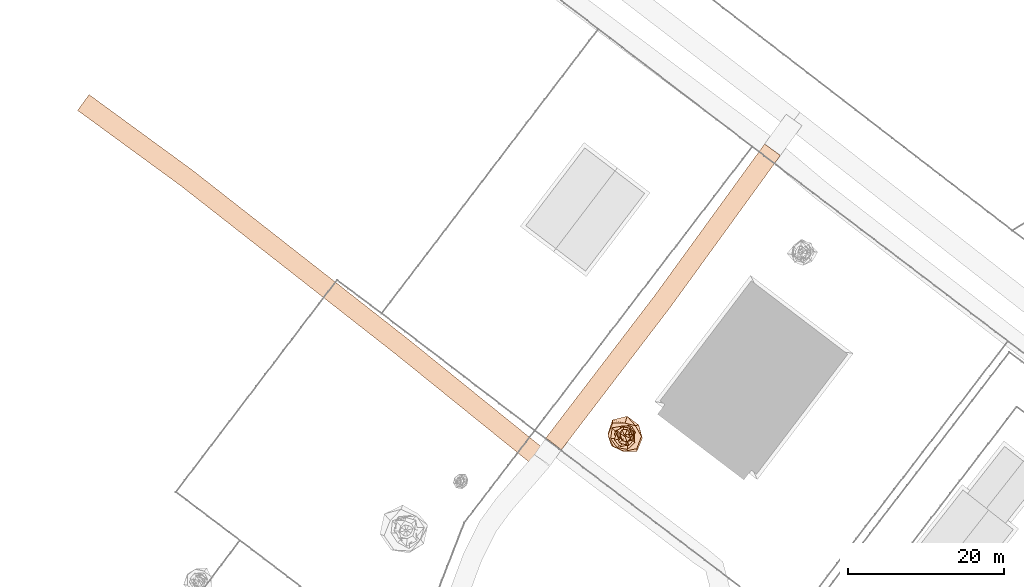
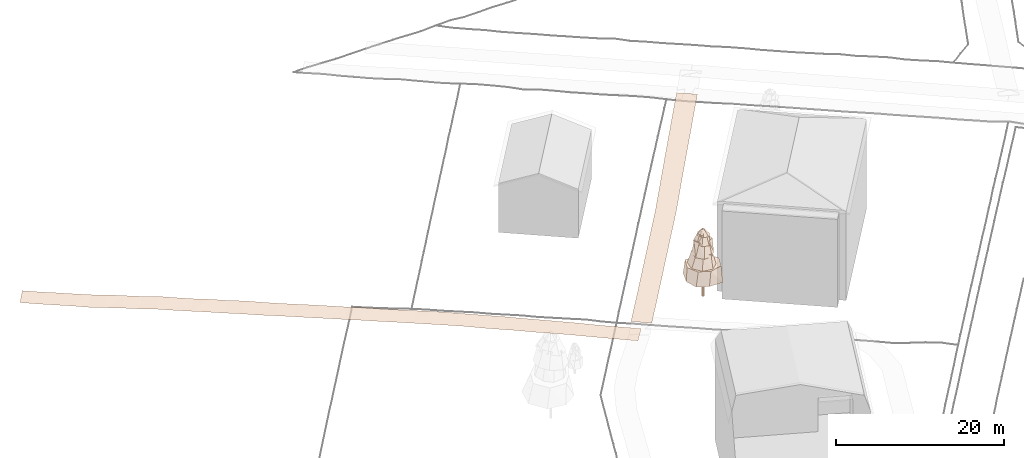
# Not in any storey, part 84 of 88: 3 geographic elements.
"""IFC4 model written with IfcOpenShell, lengths in metres."""

import ifcopenshell
import ifcopenshell.guid

model = None  # the IFC model being written
_history = None  # IfcOwnerHistory: only IFC2X3 demands one
_inside = {}  # id of a spatial element -> (the spatial element, [elements in it])
_under = {}  # id of a project, library or spatial element -> (it, [spatial elements below it])
_declared = {}  # id of a project -> (the project, [libraries it declares])
_typed = {}  # id of a type object -> (the type object, [elements of that type])
_made_of = {}  # id of a material, layer set ... -> (it, [elements and type objects made of it])


def new_model(schema):
    """Start an empty IFC model of exactly this schema.

    Asked for "IFC4X3", IfcOpenShell would pick the latest addendum, in which some entities
    have other attributes; the version numbers below select the first issue.
    IFC2X3 requires an IfcOwnerHistory on every rooted entity: one is made here for all.
    """
    global model, _history
    if schema == "IFC4X3":
        model = ifcopenshell.file(schema_version=(4, 3, 0, 0))
    else:
        model = ifcopenshell.file(schema=schema)
    _inside.clear()
    _under.clear()
    _declared.clear()
    _typed.clear()
    _made_of.clear()
    _history = None
    if model.schema == "IFC2X3":
        org = make("IfcOrganization", Name="unknown")
        user = make(
            "IfcPersonAndOrganization",
            ThePerson=make("IfcPerson", FamilyName="unknown"),
            TheOrganization=org,
        )
        app = make(
            "IfcApplication",
            ApplicationDeveloper=org,
            Version="unknown",
            ApplicationFullName="unknown",
            ApplicationIdentifier="unknown",
        )
        _history = make(
            "IfcOwnerHistory",
            OwningUser=user,
            OwningApplication=app,
            ChangeAction="ADDED",
            CreationDate=0,
        )
    return model


def make(cls, **values):
    """One entity of the class cls with the attributes given. An attribute that is None is left unset."""
    return model.create_entity(
        cls, **{name: value for name, value in values.items() if value is not None}
    )


def rooted(cls, **values):
    """An entity with a GlobalId (a new one), such as an element, a storey or a relation."""
    return make(cls, GlobalId=ifcopenshell.guid.new(), OwnerHistory=_history, **values)


def si_unit(unit_type, name, prefix=None):
    """IfcSIUnit, for example si_unit("LENGTHUNIT", "METRE", prefix="MILLI")."""
    return make("IfcSIUnit", UnitType=unit_type, Prefix=prefix, Name=name)


def assignment(units):
    """IfcUnitAssignment: the units of a project."""
    return None if units is None else make("IfcUnitAssignment", Units=units)


def point(xyz):
    """IfcCartesianPoint."""
    return None if xyz is None else make("IfcCartesianPoint", Coordinates=xyz)


def direction(xyz):
    """IfcDirection."""
    return None if xyz is None else make("IfcDirection", DirectionRatios=xyz)


def frame(location, z_axis=None, x_axis=None):
    """IfcAxis2Placement3D, a coordinate frame: its origin and axes. An axis left out is left unset."""
    return make(
        "IfcAxis2Placement3D",
        Location=point(location),
        Axis=direction(z_axis),
        RefDirection=direction(x_axis),
    )


def origin_with_axes():
    """The frame at (0, 0, 0) with the z axis (0, 0, 1) and the x axis (1, 0, 0) written out."""
    return frame((0.0, 0.0, 0.0), z_axis=(0.0, 0.0, 1.0), x_axis=(1.0, 0.0, 0.0))


def place(relative_to, where):
    """IfcLocalPlacement: puts the frame where relative to a parent placement (None: the world)."""
    return make(
        "IfcLocalPlacement", PlacementRelTo=relative_to, RelativePlacement=where
    )


def context(
    kind, dimensions, precision=None, world=None, true_north=None, identifier=None
):
    """IfcGeometricRepresentationContext, for example the 3D "Model" context."""
    return make(
        "IfcGeometricRepresentationContext",
        ContextIdentifier=identifier,
        ContextType=kind,
        CoordinateSpaceDimension=dimensions,
        Precision=precision,
        WorldCoordinateSystem=world,
        TrueNorth=true_north,
    )


def subcontext(parent, identifier, kind, view, scale=None):
    """IfcGeometricRepresentationSubContext, for example "Body" below "Model"."""
    return make(
        "IfcGeometricRepresentationSubContext",
        ContextIdentifier=identifier,
        ContextType=kind,
        ParentContext=parent,
        TargetScale=scale,
        TargetView=view,
    )


def project(units=None, contexts=None):
    """IfcProject with its units and contexts."""
    return rooted(
        "IfcProject",
        Name="project",
        RepresentationContexts=contexts,
        UnitsInContext=assignment(units),
    )


def spatial(cls, under=None, at=None, **own):
    """A site, building, storey or space (cls), placed at a placement, below another one or the project."""
    s = rooted(cls, ObjectPlacement=at, **own)
    if under is not None:
        _under.setdefault(under.id(), (under, []))[1].append(s)
    return s


def point_list(points):
    """IfcCartesianPointList2D or 3D."""
    cls = (
        "IfcCartesianPointList2D" if len(points[0]) == 2 else "IfcCartesianPointList3D"
    )
    return make(cls, CoordList=points)


def profile(cls, at=None, kind="AREA", **sizes):
    """A parametric profile (cls). Its sizes go by their IFC names, for example OverallWidth=200.0."""
    return make(cls, ProfileType=kind, Position=at, **sizes)


def circle(**sizes):
    """IfcCircleProfileDef."""
    return profile("IfcCircleProfileDef", **sizes)


def extrude(swept, where, along, depth):
    """IfcExtrudedAreaSolid: the profile swept, set in the frame where, extruded along a direction by depth."""
    return make(
        "IfcExtrudedAreaSolid",
        SweptArea=swept,
        Position=where,
        ExtrudedDirection=direction(along),
        Depth=depth,
    )


def faces_of(points, faces, orient=None, outer=None):
    """IfcFace entities. A face is a list of loops; a loop is a list of indices into points, from 0.

    orient and outer hold one flag for each loop. By default every Orientation is true, the
    first loop of a face is its IfcFaceOuterBound and the others are IfcFaceBound.
    """
    made = []
    for i, loops in enumerate(faces):
        bounds = []
        for j, loop in enumerate(loops):
            is_outer = j == 0 if outer is None else outer[i][j]
            bounds.append(
                make(
                    "IfcFaceOuterBound" if is_outer else "IfcFaceBound",
                    Bound=make("IfcPolyLoop", Polygon=[points[k] for k in loop]),
                    Orientation=True if orient is None else orient[i][j],
                )
            )
        made.append(make("IfcFace", Bounds=bounds))
    return made


def faceted_brep(points, faces, orient=None, outer=None, voids=None):
    """IfcFacetedBrep: a solid bounded by flat faces; with voids (closed shells), ...WithVoids."""
    shared = [point(p) for p in points]
    hull = make("IfcClosedShell", CfsFaces=faces_of(shared, faces, orient, outer))
    if voids is None:
        return make("IfcFacetedBrep", Outer=hull)
    return make(
        "IfcFacetedBrepWithVoids",
        Outer=hull,
        Voids=[
            make(cls, CfsFaces=faces_of(shared, fs, o, b)) for cls, fs, o, b in voids
        ],
    )


def triangles(points, corners, closed=None, point_numbers=None):
    """IfcTriangulatedFaceSet: each triangle names its three corners, points numbered from 1."""
    return make(
        "IfcTriangulatedFaceSet",
        Coordinates=point_list(points),
        Closed=closed,
        CoordIndex=corners,
        PnIndex=point_numbers,
    )


def shape(context_of_items, identifier, shape_type, items):
    """IfcShapeRepresentation: the items that make up one representation, for example the "Body"."""
    return make(
        "IfcShapeRepresentation",
        ContextOfItems=context_of_items,
        RepresentationIdentifier=identifier,
        RepresentationType=shape_type,
        Items=items,
    )


def made_of(thing, what):
    """Note that an element or type object is made of a material, layer set ...; save() writes the relation."""
    if what is not None:
        _made_of.setdefault(what.id(), (what, []))[1].append(thing)
    return thing


def element(
    cls,
    number,
    at=None,
    inside=None,
    cuts=None,
    type_object=None,
    material=None,
    context=None,
    identifier="Body",
    shape_type=None,
    held_by="IfcProductDefinitionShape",
    body=None,
    shapes=None,
    **own,
):
    """One element of the class cls, such as IfcWall. Its Tag is "e" and its number.

    at: its placement. inside: the storey or other place that contains it. cuts: it is an
    opening in that element (IfcRelVoidsElement). A single representation is given by context,
    identifier, shape_type and body (its items); several are given by shapes. held_by: the class
    of the entity that holds the representations. save() writes the other relations.
    """
    e = rooted(cls, Tag="e%d" % number, ObjectPlacement=at, **own)
    if body is not None:
        shapes = [shape(context, identifier, shape_type, body)]
    if shapes is not None:
        e.Representation = make(held_by, Representations=shapes)
    if inside is not None:
        _inside.setdefault(inside.id(), (inside, []))[1].append(e)
    if cuts is not None:
        rooted(
            "IfcRelVoidsElement", RelatingBuildingElement=cuts, RelatedOpeningElement=e
        )
    if type_object is not None:
        _typed.setdefault(type_object.id(), (type_object, []))[1].append(e)
    return made_of(e, material)


def aggregate(whole, parts):
    """IfcRelAggregates: a whole, such as a stair, and the parts it consists of."""
    return rooted("IfcRelAggregates", RelatingObject=whole, RelatedObjects=parts)


def save(model, path):
    """Write the relations noted so far, then the file.

    IfcRelAggregates (storeys below a building ...), IfcRelContainedInSpatialStructure (elements
    in a storey), IfcRelDefinesByType, IfcRelAssociatesMaterial and IfcRelDeclares: one each for
    every whole, place, type object, material and project.
    """
    for whole, parts in _under.values():
        aggregate(whole, parts)
    for where, things in _inside.values():
        rooted(
            "IfcRelContainedInSpatialStructure",
            RelatedElements=things,
            RelatingStructure=where,
        )
    for kind, things in _typed.values():
        rooted("IfcRelDefinesByType", RelatedObjects=things, RelatingType=kind)
    for what, things in _made_of.values():
        rooted("IfcRelAssociatesMaterial", RelatedObjects=things, RelatingMaterial=what)
    for by, libraries in _declared.values():
        rooted("IfcRelDeclares", RelatingContext=by, RelatedDefinitions=libraries)
    model.write(path)


model = new_model("IFC4")

# Units and contexts
model_context = context("Model", 3, precision=1e-05, world=origin_with_axes())
body_context = subcontext(model_context, "Body", "Model", "MODEL_VIEW")
ifc_project = project(units=[si_unit("LENGTHUNIT", "METRE"), si_unit("AREAUNIT", "SQUARE_METRE"), si_unit("VOLUMEUNIT", "CUBIC_METRE"), si_unit("PLANEANGLEUNIT", "RADIAN")], contexts=[model_context])

# Sites
site_1_placement = place(None, origin_with_axes())
site_1 = spatial("IfcSite", under=ifc_project, at=site_1_placement, Name="CH907857693633", CompositionType="ELEMENT")
site_2_placement = place(None, origin_with_axes())
site_2 = spatial("IfcSite", under=site_1, at=site_2_placement, Name="Vegetation", CompositionType="ELEMENT")

# Geographic element
geographic_element_1_placement = place(None, frame((76.5490000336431, 165.822003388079, 8.29266357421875), z_axis=(0.0, 0.0, 1.0), x_axis=(1.0, 0.0, 0.0)))
element("IfcGeographicElement", 1, at=geographic_element_1_placement, inside=site_2, Name="Tree_einzelbaum", ObjectType="VEGETATION", PredefinedType="USERDEFINED", context=body_context, shape_type="Brep", body=[
    extrude(circle(Radius=0.15), origin_with_axes(), (0.0, 0.0, 1.0), 2.66645605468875),
    faceted_brep([(2.28107047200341, -0.295422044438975, 2.66645605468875), (1.56140918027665, -2.02601780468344, 2.66645605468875), (-0.256157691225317, -1.97789486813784, 2.66645605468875), (-1.68212006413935, -1.29637444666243, 2.66645605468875), (-2.14799230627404, 0.27818705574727, 2.66645605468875), (-1.56776121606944, 2.03425993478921, 2.66645605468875), (0.324426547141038, 2.50502571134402, 2.66645605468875), (1.80590220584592, 1.39177073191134, 2.66645605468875), (1.37412151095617, 1.29718432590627, 4.83489047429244), (0.0464719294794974, 1.61353364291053, 4.83489047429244), (-1.53763321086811, 1.62883163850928, 4.83489047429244), (-2.14603103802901, 0.0618085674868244, 4.83489047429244), (-1.45130383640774, -1.37004520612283, 4.83489047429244), (-0.0572854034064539, -1.98898403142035, 4.83489047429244), (1.55308108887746, -1.64519574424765, 4.83489047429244), (2.15118167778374, -0.0619569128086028, 4.83489047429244), (1.80590220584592, 1.39177073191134, 2.66645605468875), (0.324426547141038, 2.50502571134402, 2.66645605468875), (0.0464719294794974, 1.61353364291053, 4.83489047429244), (1.37412151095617, 1.29718432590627, 4.83489047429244), (0.324426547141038, 2.50502571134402, 2.66645605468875), (-1.56776121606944, 2.03425993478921, 2.66645605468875), (-1.53763321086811, 1.62883163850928, 4.83489047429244), (0.0464719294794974, 1.61353364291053, 4.83489047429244), (-1.56776121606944, 2.03425993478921, 2.66645605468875), (-2.14799230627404, 0.27818705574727, 2.66645605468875), (-2.14603103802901, 0.0618085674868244, 4.83489047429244), (-1.53763321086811, 1.62883163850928, 4.83489047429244), (-2.14799230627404, 0.27818705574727, 2.66645605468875), (-1.68212006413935, -1.29637444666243, 2.66645605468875), (-1.45130383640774, -1.37004520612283, 4.83489047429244), (-2.14603103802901, 0.0618085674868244, 4.83489047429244), (-1.68212006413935, -1.29637444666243, 2.66645605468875), (-0.256157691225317, -1.97789486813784, 2.66645605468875), (-0.0572854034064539, -1.98898403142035, 4.83489047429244), (-1.45130383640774, -1.37004520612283, 4.83489047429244), (-0.256157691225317, -1.97789486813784, 2.66645605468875), (1.56140918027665, -2.02601780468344, 2.66645605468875), (1.55308108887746, -1.64519574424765, 4.83489047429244), (-0.0572854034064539, -1.98898403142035, 4.83489047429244), (1.56140918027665, -2.02601780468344, 2.66645605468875), (2.28107047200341, -0.295422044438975, 2.66645605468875), (2.15118167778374, -0.0619569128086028, 4.83489047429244), (1.55308108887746, -1.64519574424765, 4.83489047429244), (2.28107047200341, -0.295422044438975, 2.66645605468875), (1.80590220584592, 1.39177073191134, 2.66645605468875), (1.37412151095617, 1.29718432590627, 4.83489047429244), (2.15118167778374, -0.0619569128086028, 4.83489047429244)], [[[0, 1, 2, 3, 4, 5, 6, 7]], [[8, 9, 10, 11, 12, 13, 14, 15]], [[16, 17, 18, 19]], [[20, 21, 22, 23]], [[24, 25, 26, 27]], [[28, 29, 30, 31]], [[32, 33, 34, 35]], [[36, 37, 38, 39]], [[40, 41, 42, 43]], [[44, 45, 46, 47]]]),
    faceted_brep([(1.35810362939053, -0.896066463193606, 4.50962531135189), (0.372905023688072, -1.81931544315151, 4.50962531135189), (-1.03534001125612, -1.56919055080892, 4.50962531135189), (-1.87623543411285, -0.384571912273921, 4.50962531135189), (-1.64847573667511, 1.08765177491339, 4.50962531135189), (-0.272794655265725, 1.33090062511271, 4.50962531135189), (0.849833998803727, 1.28803240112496, 4.50962531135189), (1.30969109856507, 0.268447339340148, 4.50962531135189), (1.39647011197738, 0.435301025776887, 6.67960353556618), (0.535741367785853, 1.02100201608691, 6.67960353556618), (-0.314325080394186, 1.00837249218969, 6.67960353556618), (-1.21061836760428, 0.635237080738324, 6.67960353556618), (-1.13387702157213, -0.353446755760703, 6.67960353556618), (-0.601291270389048, -1.14592532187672, 6.67960353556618), (0.385324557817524, -1.23614279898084, 6.67960353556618), (0.939105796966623, -0.492768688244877, 6.67960353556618), (1.30969109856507, 0.268447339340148, 4.50962531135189), (0.849833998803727, 1.28803240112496, 4.50962531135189), (0.535741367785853, 1.02100201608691, 6.67960353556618), (1.39647011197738, 0.435301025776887, 6.67960353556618), (0.849833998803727, 1.28803240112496, 4.50962531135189), (-0.272794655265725, 1.33090062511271, 4.50962531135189), (-0.314325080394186, 1.00837249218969, 6.67960353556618), (0.535741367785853, 1.02100201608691, 6.67960353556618), (-0.272794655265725, 1.33090062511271, 4.50962531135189), (-1.64847573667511, 1.08765177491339, 4.50962531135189), (-1.21061836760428, 0.635237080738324, 6.67960353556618), (-0.314325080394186, 1.00837249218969, 6.67960353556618), (-1.64847573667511, 1.08765177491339, 4.50962531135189), (-1.87623543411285, -0.384571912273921, 4.50962531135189), (-1.13387702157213, -0.353446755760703, 6.67960353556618), (-1.21061836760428, 0.635237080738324, 6.67960353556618), (-1.87623543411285, -0.384571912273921, 4.50962531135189), (-1.03534001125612, -1.56919055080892, 4.50962531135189), (-0.601291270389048, -1.14592532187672, 6.67960353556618), (-1.13387702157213, -0.353446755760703, 6.67960353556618), (-1.03534001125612, -1.56919055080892, 4.50962531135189), (0.372905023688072, -1.81931544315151, 4.50962531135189), (0.385324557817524, -1.23614279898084, 6.67960353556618), (-0.601291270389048, -1.14592532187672, 6.67960353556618), (0.372905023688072, -1.81931544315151, 4.50962531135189), (1.35810362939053, -0.896066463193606, 4.50962531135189), (0.939105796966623, -0.492768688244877, 6.67960353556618), (0.385324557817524, -1.23614279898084, 6.67960353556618), (1.35810362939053, -0.896066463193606, 4.50962531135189), (1.30969109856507, 0.268447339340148, 4.50962531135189), (1.39647011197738, 0.435301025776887, 6.67960353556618), (0.939105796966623, -0.492768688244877, 6.67960353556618)], [[[0, 1, 2, 3, 4, 5, 6, 7]], [[8, 9, 10, 11, 12, 13, 14, 15]], [[16, 17, 18, 19]], [[20, 21, 22, 23]], [[24, 25, 26, 27]], [[28, 29, 30, 31]], [[32, 33, 34, 35]], [[36, 37, 38, 39]], [[40, 41, 42, 43]], [[44, 45, 46, 47]]]),
    faceted_brep([(1.20053959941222, -0.483339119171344, 6.35410680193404), (0.532676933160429, -1.2506452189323, 6.35410680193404), (-0.548788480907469, -1.36310568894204, 6.35410680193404), (-1.32271220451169, -0.563371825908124, 6.35410680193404), (-1.27507240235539, 0.513346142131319, 6.35410680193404), (-0.459155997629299, 1.07802913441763, 6.35410680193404), (0.549158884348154, 1.36402571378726, 6.35410680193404), (1.21380715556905, 0.516986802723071, 6.35410680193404), (1.03693475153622, 0.570054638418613, 8.22617369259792), (0.247055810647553, 0.85035977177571, 8.22617369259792), (-0.389377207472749, 0.708280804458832, 8.22617369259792), (-1.07494811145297, 0.312305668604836, 8.22617369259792), (-0.779624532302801, -0.428598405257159, 8.22617369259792), (-0.235079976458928, -0.809139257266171, 8.22617369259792), (0.396604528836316, -0.721427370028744, 8.22617369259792), (1.09622362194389, -0.318486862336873, 8.22617369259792), (1.21380715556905, 0.516986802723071, 6.35410680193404), (0.549158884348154, 1.36402571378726, 6.35410680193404), (0.247055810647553, 0.85035977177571, 8.22617369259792), (1.03693475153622, 0.570054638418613, 8.22617369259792), (0.549158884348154, 1.36402571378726, 6.35410680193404), (-0.459155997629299, 1.07802913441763, 6.35410680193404), (-0.389377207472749, 0.708280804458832, 8.22617369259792), (0.247055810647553, 0.85035977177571, 8.22617369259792), (-0.459155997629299, 1.07802913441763, 6.35410680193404), (-1.27507240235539, 0.513346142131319, 6.35410680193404), (-1.07494811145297, 0.312305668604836, 8.22617369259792), (-0.389377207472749, 0.708280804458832, 8.22617369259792), (-1.27507240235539, 0.513346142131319, 6.35410680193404), (-1.32271220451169, -0.563371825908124, 6.35410680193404), (-0.779624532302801, -0.428598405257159, 8.22617369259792), (-1.07494811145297, 0.312305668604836, 8.22617369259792), (-1.32271220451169, -0.563371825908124, 6.35410680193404), (-0.548788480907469, -1.36310568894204, 6.35410680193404), (-0.235079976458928, -0.809139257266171, 8.22617369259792), (-0.779624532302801, -0.428598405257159, 8.22617369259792), (-0.548788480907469, -1.36310568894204, 6.35410680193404), (0.532676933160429, -1.2506452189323, 6.35410680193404), (0.396604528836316, -0.721427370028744, 8.22617369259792), (-0.235079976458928, -0.809139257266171, 8.22617369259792), (0.532676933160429, -1.2506452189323, 6.35410680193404), (1.20053959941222, -0.483339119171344, 6.35410680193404), (1.09622362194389, -0.318486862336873, 8.22617369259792), (0.396604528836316, -0.721427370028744, 8.22617369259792), (1.20053959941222, -0.483339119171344, 6.35410680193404), (1.21380715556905, 0.516986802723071, 6.35410680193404), (1.03693475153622, 0.570054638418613, 8.22617369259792), (1.09622362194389, -0.318486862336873, 8.22617369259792)], [[[0, 1, 2, 3, 4, 5, 6, 7]], [[8, 9, 10, 11, 12, 13, 14, 15]], [[16, 17, 18, 19]], [[20, 21, 22, 23]], [[24, 25, 26, 27]], [[28, 29, 30, 31]], [[32, 33, 34, 35]], [[36, 37, 38, 39]], [[40, 41, 42, 43]], [[44, 45, 46, 47]]]),
    faceted_brep([(0.706671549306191, -0.51430036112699, 7.94536365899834), (0.180345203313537, -1.14464348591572, 7.94536365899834), (-0.668976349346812, -0.919203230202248, 7.94536365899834), (-0.89340715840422, -0.140761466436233, 7.94536365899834), (-0.971513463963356, 0.707046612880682, 7.94536365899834), (-0.178791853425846, 1.13478443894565, 7.94536365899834), (0.689387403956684, 0.947248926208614, 7.94536365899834), (1.04861717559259, 0.165215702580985, 7.94536365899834), (0.641579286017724, 0.168114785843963, 9.15974583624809), (0.281850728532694, 0.482006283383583, 9.15974583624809), (-0.163869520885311, 0.625378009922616, 9.15974583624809), (-0.588943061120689, 0.344381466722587, 9.15974583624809), (-0.579483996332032, -0.151843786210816, 9.15974583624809), (-0.276986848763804, -0.473688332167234, 9.15974583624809), (0.153732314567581, -0.586691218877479, 9.15974583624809), (0.556390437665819, -0.32534648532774, 9.15974583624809), (1.04861717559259, 0.165215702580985, 7.94536365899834), (0.689387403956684, 0.947248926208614, 7.94536365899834), (0.281850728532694, 0.482006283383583, 9.15974583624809), (0.641579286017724, 0.168114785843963, 9.15974583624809), (0.689387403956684, 0.947248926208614, 7.94536365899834), (-0.178791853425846, 1.13478443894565, 7.94536365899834), (-0.163869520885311, 0.625378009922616, 9.15974583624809), (0.281850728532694, 0.482006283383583, 9.15974583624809), (-0.178791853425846, 1.13478443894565, 7.94536365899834), (-0.971513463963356, 0.707046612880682, 7.94536365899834), (-0.588943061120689, 0.344381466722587, 9.15974583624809), (-0.163869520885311, 0.625378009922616, 9.15974583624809), (-0.971513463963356, 0.707046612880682, 7.94536365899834), (-0.89340715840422, -0.140761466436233, 7.94536365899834), (-0.579483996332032, -0.151843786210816, 9.15974583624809), (-0.588943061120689, 0.344381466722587, 9.15974583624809), (-0.89340715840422, -0.140761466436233, 7.94536365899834), (-0.668976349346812, -0.919203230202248, 7.94536365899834), (-0.276986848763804, -0.473688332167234, 9.15974583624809), (-0.579483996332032, -0.151843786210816, 9.15974583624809), (-0.668976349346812, -0.919203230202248, 7.94536365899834), (0.180345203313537, -1.14464348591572, 7.94536365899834), (0.153732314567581, -0.586691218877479, 9.15974583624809), (-0.276986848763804, -0.473688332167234, 9.15974583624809), (0.180345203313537, -1.14464348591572, 7.94536365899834), (0.706671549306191, -0.51430036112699, 7.94536365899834), (0.556390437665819, -0.32534648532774, 9.15974583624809), (0.153732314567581, -0.586691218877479, 9.15974583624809), (0.706671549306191, -0.51430036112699, 7.94536365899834), (1.04861717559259, 0.165215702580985, 7.94536365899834), (0.641579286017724, 0.168114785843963, 9.15974583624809), (0.556390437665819, -0.32534648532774, 9.15974583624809)], [[[0, 1, 2, 3, 4, 5, 6, 7]], [[8, 9, 10, 11, 12, 13, 14, 15]], [[16, 17, 18, 19]], [[20, 21, 22, 23]], [[24, 25, 26, 27]], [[28, 29, 30, 31]], [[32, 33, 34, 35]], [[36, 37, 38, 39]], [[40, 41, 42, 43]], [[44, 45, 46, 47]]]),
    faceted_brep([(0.773548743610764, -0.315948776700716, 8.97758850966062), (0.324086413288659, -0.771615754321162, 8.97758850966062), (-0.26427515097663, -0.647034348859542, 8.97758850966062), (-0.586859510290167, -0.246486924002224, 8.97758850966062), (-0.678219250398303, 0.277012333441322, 8.97758850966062), (-0.324151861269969, 0.77177157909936, 8.97758850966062), (0.327480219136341, 0.801781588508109, 8.97758850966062), (0.638668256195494, 0.268247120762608, 8.97758850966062), (0.0776846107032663, 0.0422012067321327, 9.85056485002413), (0.0241363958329, 0.081548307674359, 9.85056485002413), (-0.0414639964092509, 0.0763275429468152, 9.85056485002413), (-0.0981833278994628, 0.029059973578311, 9.85056485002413), (-0.0762345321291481, -0.0414134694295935, 9.85056485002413), (-0.0221989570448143, -0.0750023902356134, 9.85056485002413), (0.0470033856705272, -0.0865245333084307, 9.85056485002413), (0.0807517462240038, -0.0239006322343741, 9.85056485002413), (0.638668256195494, 0.268247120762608, 8.97758850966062), (0.327480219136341, 0.801781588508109, 8.97758850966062), (0.0241363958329, 0.081548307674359, 9.85056485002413), (0.0776846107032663, 0.0422012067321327, 9.85056485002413), (0.327480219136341, 0.801781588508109, 8.97758850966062), (-0.324151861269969, 0.77177157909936, 8.97758850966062), (-0.0414639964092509, 0.0763275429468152, 9.85056485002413), (0.0241363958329, 0.081548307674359, 9.85056485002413), (-0.324151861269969, 0.77177157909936, 8.97758850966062), (-0.678219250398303, 0.277012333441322, 8.97758850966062), (-0.0981833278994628, 0.029059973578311, 9.85056485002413), (-0.0414639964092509, 0.0763275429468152, 9.85056485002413), (-0.678219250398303, 0.277012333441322, 8.97758850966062), (-0.586859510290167, -0.246486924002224, 8.97758850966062), (-0.0762345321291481, -0.0414134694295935, 9.85056485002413), (-0.0981833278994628, 0.029059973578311, 9.85056485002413), (-0.586859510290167, -0.246486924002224, 8.97758850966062), (-0.26427515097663, -0.647034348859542, 8.97758850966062), (-0.0221989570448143, -0.0750023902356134, 9.85056485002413), (-0.0762345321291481, -0.0414134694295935, 9.85056485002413), (-0.26427515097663, -0.647034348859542, 8.97758850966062), (0.324086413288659, -0.771615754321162, 8.97758850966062), (0.0470033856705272, -0.0865245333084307, 9.85056485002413), (-0.0221989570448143, -0.0750023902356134, 9.85056485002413), (0.324086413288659, -0.771615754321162, 8.97758850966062), (0.773548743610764, -0.315948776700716, 8.97758850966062), (0.0807517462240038, -0.0239006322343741, 9.85056485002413), (0.0470033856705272, -0.0865245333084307, 9.85056485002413), (0.773548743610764, -0.315948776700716, 8.97758850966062), (0.638668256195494, 0.268247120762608, 8.97758850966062), (0.0776846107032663, 0.0422012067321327, 9.85056485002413), (0.0807517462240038, -0.0239006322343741, 9.85056485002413)], [[[0, 1, 2, 3, 4, 5, 6, 7]], [[8, 9, 10, 11, 12, 13, 14, 15]], [[16, 17, 18, 19]], [[20, 21, 22, 23]], [[24, 25, 26, 27]], [[28, 29, 30, 31]], [[32, 33, 34, 35]], [[36, 37, 38, 39]], [[40, 41, 42, 43]], [[44, 45, 46, 47]]]),
])

# Site
site_3_placement = place(None, origin_with_axes())
site_3 = spatial("IfcSite", under=site_1, at=site_3_placement, Name="Roads", CompositionType="ELEMENT")

# Geographic elements
geographic_element_2_placement = place(None, origin_with_axes())
element("IfcGeographicElement", 2, at=geographic_element_2_placement, inside=site_3, Name="Road_weg", ObjectType="ROAD", PredefinedType="USERDEFINED", context=body_context, shape_type="Tessellation", body=[
    triangles([(65.2421301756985, 161.735939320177, 8.20319824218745), (63.6142210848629, 163.052030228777, 8.19978027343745), (61.9863119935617, 164.368121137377, 8.1988647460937), (60.3584029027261, 165.684212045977, 8.1961791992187), (58.7304938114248, 167.000302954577, 8.2092407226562), (57.1025847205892, 168.316393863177, 8.16267089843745), (55.474675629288, 169.63248477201, 8.1190307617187), (53.8467665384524, 170.94857568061, 8.12531738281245), (52.2188574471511, 172.26466658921, 8.07099609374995), (50.5909483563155, 173.58075749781, 8.03535156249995), (48.9630392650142, 174.89684840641, 8.0437133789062), (47.3425522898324, 176.206985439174, 7.9809692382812), (45.7289665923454, 177.470991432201, 7.93012695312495), (44.1077901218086, 178.740991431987, 7.87067871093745), (42.4866136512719, 180.010991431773, 7.8126342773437), (40.8654371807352, 181.280991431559, 7.73200683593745), (39.2442607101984, 182.550991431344, 7.68244628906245), (37.6230842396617, 183.82099143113, 7.6054809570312), (36.001907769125, 185.090991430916, 7.5428588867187), (34.3807312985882, 186.360991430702, 7.4588745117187), (32.7595548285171, 187.630991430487, 7.4030883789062), (31.1383783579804, 188.900991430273, 7.3238647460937), (29.5172018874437, 190.170991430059, 7.2264526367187), (27.8960254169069, 191.440991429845, 7.2016723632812), (26.2748489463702, 192.710991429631, 7.10822753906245), (24.6536724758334, 193.980991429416, 7.06098632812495), (23.0324960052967, 195.250991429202, 6.97944335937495), (21.41131953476, 196.520991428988, 6.9122436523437), (19.8066041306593, 197.778315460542, 6.8737915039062), (18.172518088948, 198.972452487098, 6.7606323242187), (16.5216430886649, 200.179077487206, 6.7238891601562), (14.8707680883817, 201.385702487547, 6.62653808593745), (13.2198930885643, 202.592327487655, 6.53706054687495), (11.5690180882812, 203.798952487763, 6.58283691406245), (9.91814308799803, 205.005577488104, 6.56806640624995), (8.26726808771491, 206.212202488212, 6.5651977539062), (6.61639308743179, 207.41882748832, 6.5998657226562), (66.8138698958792, 163.680067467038, 8.2619750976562), (65.1859608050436, 164.996158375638, 8.23640136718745), (63.5580517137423, 166.312249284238, 8.2082641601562), (61.9301426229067, 167.628340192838, 8.2136352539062), (60.3022335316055, 168.944431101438, 8.2387817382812), (58.6743244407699, 170.260522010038, 8.2263305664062), (57.0464153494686, 171.576612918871, 8.2158325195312), (55.418506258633, 172.892703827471, 8.19465332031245), (53.7905971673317, 174.208794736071, 8.1964233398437), (52.1626880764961, 175.524885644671, 8.1467407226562), (50.5347789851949, 176.840976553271, 8.11286621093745), (48.8994477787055, 178.163021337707, 8.08344726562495), (47.270680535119, 179.439015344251, 8.0536010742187), (45.6495040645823, 180.709015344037, 7.9514282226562), (44.0283275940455, 181.979015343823, 7.8792846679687), (42.4071511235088, 183.249015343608, 7.80708007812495), (40.7859746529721, 184.519015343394, 7.78681640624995), (39.1647981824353, 185.78901534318, 7.68146972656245), (37.5436217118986, 187.059015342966, 7.6292846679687), (35.9224452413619, 188.329015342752, 7.5710571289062), (34.3012687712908, 189.599015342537, 7.48005371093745), (32.680092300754, 190.869015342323, 7.39887695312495), (31.0589158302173, 192.139015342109, 7.3586547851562), (29.4377393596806, 193.409015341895, 7.34638671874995), (27.8165628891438, 194.67901534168, 7.2223022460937), (26.1953864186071, 195.949015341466, 7.1760375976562), (24.5742099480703, 197.219015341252, 7.0560424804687), (22.9530334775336, 198.489015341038, 7.00385742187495), (21.3153959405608, 199.771691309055, 6.97944335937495), (19.6477319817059, 200.990804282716, 6.8398559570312), (17.9968569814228, 202.197429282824, 6.7913940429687), (16.3459819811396, 203.404054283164, 6.7453735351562), (14.6951069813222, 204.610679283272, 6.61445312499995), (13.044231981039, 205.817304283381, 6.5976684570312), (11.3933569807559, 207.023929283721, 6.5926635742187), (9.7424819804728, 208.230554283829, 6.5621459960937), (8.09160698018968, 209.437179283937, 6.59064941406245)], [[1, 38, 2], [38, 39, 2], [2, 39, 3], [39, 40, 3], [3, 40, 4], [40, 41, 4], [4, 41, 5], [41, 42, 5], [5, 42, 6], [42, 43, 6], [6, 43, 7], [43, 44, 7], [7, 44, 8], [44, 45, 8], [8, 45, 9], [45, 46, 9], [9, 46, 10], [46, 47, 10], [10, 47, 11], [47, 48, 11], [11, 48, 12], [48, 49, 12], [12, 49, 13], [49, 50, 13], [13, 50, 14], [50, 51, 14], [14, 51, 15], [51, 52, 15], [15, 52, 16], [52, 53, 16], [16, 53, 17], [53, 54, 17], [17, 54, 18], [54, 55, 18], [18, 55, 19], [55, 56, 19], [19, 56, 20], [56, 57, 20], [20, 57, 21], [57, 58, 21], [21, 58, 22], [58, 59, 22], [22, 59, 23], [59, 60, 23], [23, 60, 24], [60, 61, 24], [24, 61, 25], [61, 62, 25], [25, 62, 26], [62, 63, 26], [26, 63, 27], [63, 64, 27], [27, 64, 28], [64, 65, 28], [28, 65, 29], [65, 66, 29], [29, 66, 30], [66, 67, 30], [30, 67, 31], [67, 68, 31], [31, 68, 32], [68, 69, 32], [32, 69, 33], [69, 70, 33], [33, 70, 34], [70, 71, 34], [34, 71, 35], [71, 72, 35], [35, 72, 36], [72, 73, 36], [36, 73, 37], [73, 74, 37]]),
])
geographic_element_3_placement = place(None, origin_with_axes())
element("IfcGeographicElement", 3, at=geographic_element_3_placement, inside=site_3, Name="Road_weg", ObjectType="ROAD", PredefinedType="USERDEFINED", context=body_context, shape_type="Tessellation", body=[
    triangles([(96.4678942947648, 201.664130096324, 8.9395874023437), (95.2934776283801, 200.044796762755, 8.94306640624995), (94.1190609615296, 198.425463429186, 8.8953979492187), (92.9446442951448, 196.806130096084, 8.89143066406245), (91.77022762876, 195.186796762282, 8.8713500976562), (90.5958109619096, 193.567463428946, 8.8995483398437), (89.4213942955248, 191.94813009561, 8.8983276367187), (88.24697762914, 190.328796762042, 8.90583496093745), (87.0725609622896, 188.709463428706, 8.9022338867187), (85.8981442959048, 187.09013009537, 8.91303710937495), (84.72372762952, 185.470796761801, 8.8382690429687), (83.5493109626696, 183.851463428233, 8.78803710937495), (82.3654672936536, 182.219304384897, 8.7486694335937), (81.0939708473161, 180.555078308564, 8.67841796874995), (79.8316981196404, 178.903078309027, 8.65522460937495), (78.5694253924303, 177.251078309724, 8.59199218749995), (77.3071526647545, 175.599078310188, 8.5172241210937), (76.0448799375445, 173.947078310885, 8.46406249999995), (74.7826072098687, 172.295078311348, 8.40900878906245), (73.5203344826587, 170.643078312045, 8.3241088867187), (72.2580617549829, 168.991078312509, 8.3077514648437), (70.9957890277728, 167.339078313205, 8.2630737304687), (69.7335163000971, 165.687078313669, 8.2634399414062), (68.471243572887, 164.035078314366, 8.2528198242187), (94.4441057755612, 203.131876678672, 8.97395019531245), (93.2696891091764, 201.512543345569, 8.93366699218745), (92.0952724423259, 199.893210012, 8.9365356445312), (90.9208557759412, 198.273876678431, 8.91975097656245), (89.7464391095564, 196.654543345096, 8.90803222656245), (88.5720224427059, 195.03521001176, 8.9184692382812), (87.3976057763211, 193.415876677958, 8.9220092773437), (86.2231891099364, 191.796543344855, 8.91108398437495), (85.0487724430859, 190.177210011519, 8.90058593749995), (83.8743557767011, 188.557876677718, 8.87263183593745), (82.6999391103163, 186.938543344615, 8.81965332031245), (81.5255224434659, 185.319210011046, 8.8029907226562), (80.3605327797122, 183.712702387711, 8.71723632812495), (79.1074837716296, 182.072928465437, 8.6721313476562), (77.8452110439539, 180.420928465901, 8.6400268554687), (76.5829383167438, 178.768928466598, 8.5833862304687), (75.3206655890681, 177.116928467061, 8.51850585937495), (74.058392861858, 175.464928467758, 8.4495971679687), (72.7961201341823, 173.812928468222, 8.4279907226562), (71.5338474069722, 172.160928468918, 8.37055664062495), (70.2715746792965, 170.508928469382, 8.30329589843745), (69.0093019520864, 168.856928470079, 8.30085449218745), (67.7470292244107, 167.204928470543, 8.2970092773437), (66.4847564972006, 165.552928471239, 8.2852905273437)], [[1, 25, 2], [25, 26, 2], [2, 26, 3], [26, 27, 3], [3, 27, 4], [27, 28, 4], [4, 28, 5], [28, 29, 5], [5, 29, 6], [29, 30, 6], [6, 30, 7], [30, 31, 7], [7, 31, 8], [31, 32, 8], [8, 32, 9], [32, 33, 9], [9, 33, 10], [33, 34, 10], [10, 34, 11], [34, 35, 11], [11, 35, 12], [35, 36, 12], [12, 36, 13], [36, 37, 13], [13, 37, 14], [37, 38, 14], [14, 38, 15], [38, 39, 15], [15, 39, 16], [39, 40, 16], [16, 40, 17], [40, 41, 17], [17, 41, 18], [41, 42, 18], [18, 42, 19], [42, 43, 19], [19, 43, 20], [43, 44, 20], [20, 44, 21], [44, 45, 21], [21, 45, 22], [45, 46, 22], [22, 46, 23], [46, 47, 23], [23, 47, 24], [47, 48, 24]]),
])

save(model, "model.ifc")
